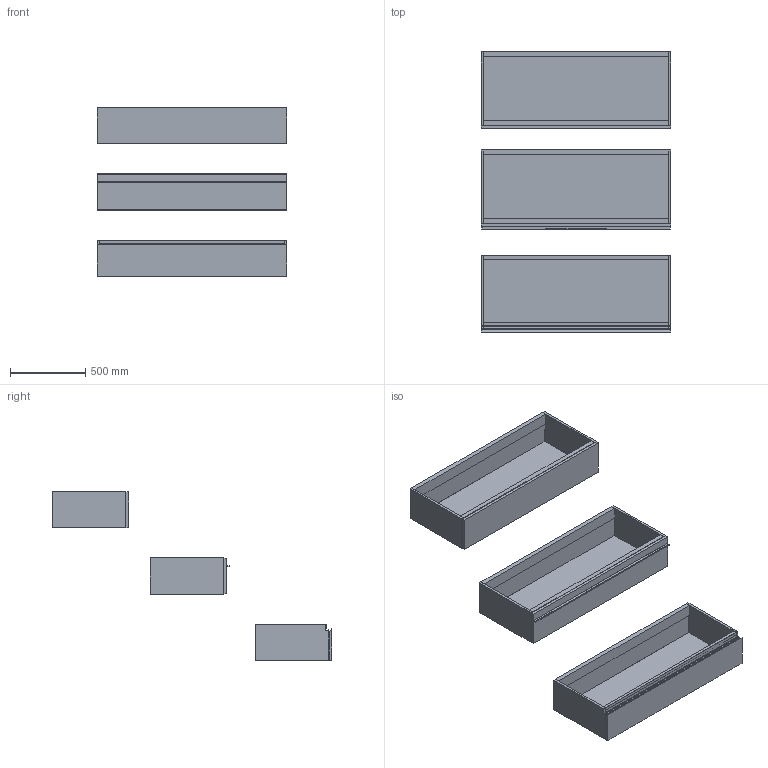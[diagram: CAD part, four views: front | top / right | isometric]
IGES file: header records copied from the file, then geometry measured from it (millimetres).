
Start section: Data from Parasolid IGES Translator 19.0.9, Copyright(c) 2006 Siemens PL M Software. All Rights Reserved.
Global section: file name: noorth-SI-H 24 D 51 W 126_8307.igs; native system: By Siemens PLM Incorporated; preprocessor: XPlus GENERIC/IGES 19.0.9; author: Noname; organization: Noname; date: 20200530.120319; units: metre
Bounding box: 1260 x 1857.1 x 1120.01 mm (x, y, z)
Volume: 69176494.7 mm3; surface area: 10103631.6 mm2
Topology: 23 solids, 23 shells, 196 faces, 418 edges, 258 vertices
Faces by surface type: plane 152, extrusion 16, bspline 16, cylinder 12
